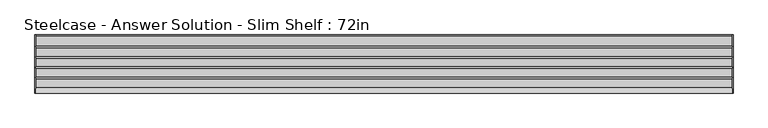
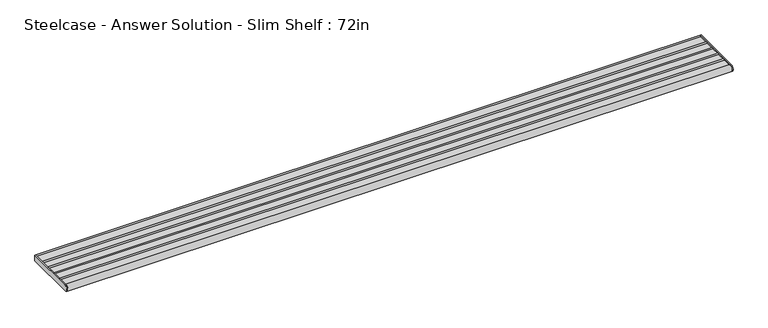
"""IFC4 building model written with IfcOpenShell, lengths in millimetres: furniture geometry, Steelcase - Answer Solution - Slim Shelf : 72in."""

from ifc_helpers import new_model, si_unit, point, frame, frame_2d, origin, place, context, project, spatial, polyline, circle_curve, trimmed, segment, composite_curve, outline, extrude, source, transform, mapped, element, save


def steelcase_answer_solution_slim_shelf_72in_cc0a2fbb(model_context):
    return source(origin(), model_context, "Body", "SweptSolid", [
        extrude(outline(composite_curve([segment(polyline([(-29.2099994, 928.482716), (-2.2859999, 928.482716)]), True, "CONTINUOUS"), segment(trimmed(circle_curve(frame_2d((1e-07, 928.482716)), 2.2860001), [point((-2.2859999, 928.482716))], [point((0.0, 930.7687161))], False, "CARTESIAN"), True, "CONTINUOUS"), segment(polyline([(0.0, 930.7687161), (0.0, 914.4), (-143.9753135, 914.4)]), True, "CONTINUOUS"), segment(trimmed(circle_curve(frame_2d((-143.9753135, 922.8328065)), 8.4328065), [point((-143.9753135, 914.4))], [point((-137.7150621, 928.482716))], False, "CARTESIAN"), True, "CONTINUOUS"), segment(polyline([(-137.7150621, 928.482716), (-114.7063978, 928.482716)]), True, "CONTINUOUS"), segment(trimmed(circle_curve(frame_2d((-112.4204, 928.482716)), 2.2859978), [point((-114.7063978, 928.482716))], [point((-110.1344022, 928.482716))], False, "CARTESIAN"), True, "CONTINUOUS"), segment(polyline([(-110.1344022, 928.482716), (-87.7315999, 928.482716)]), True, "CONTINUOUS"), segment(trimmed(circle_curve(frame_2d((-85.4456021, 928.482716)), 2.2859978), [point((-87.7315999, 928.482716))], [point((-83.1596043, 928.482716))], False, "CARTESIAN"), True, "CONTINUOUS"), segment(polyline([(-83.1596043, 928.482716), (-60.756802, 928.482716)]), True, "CONTINUOUS"), segment(trimmed(circle_curve(frame_2d((-58.4708019, 928.482716)), 2.2860001), [point((-60.756802, 928.482716))], [point((-56.1848018, 928.482716))], False, "CARTESIAN"), True, "CONTINUOUS"), segment(polyline([(-56.1848018, 928.482716), (-33.7819996, 928.482716)]), True, "CONTINUOUS"), segment(trimmed(circle_curve(frame_2d((-31.4959995, 928.482716)), 2.2860001), [point((-33.7819996, 928.482716))], [point((-29.2099994, 928.482716))], False, "CARTESIAN"), True, "CONTINUOUS")], self_intersect=False)), frame((2.7431999, 0.0, 0.0), z_axis=(1.0, 0.0, 0.0), x_axis=(0.0, 1.0, 0.0)), (0.0, 0.0, 1.0), 1823.2120001),
        extrude(outline(composite_curve([segment(polyline([(-143.9753135, 931.265613), (0.0, 931.265613), (0.0, 914.4), (-143.9753135, 914.4)]), True, "CONTINUOUS"), segment(trimmed(circle_curve(frame_2d((-143.9753135, 922.8328065)), 8.4328065), [point((-143.9753135, 914.4))], [point((-143.9753135, 931.265613))], False, "CARTESIAN"), True, "CONTINUOUS")], self_intersect=False)), frame((1825.9552, 0.0, 0.0), z_axis=(1.0, 0.0, 0.0), x_axis=(0.0, 1.0, 0.0)), (0.0, 0.0, 1.0), 2.8448),
        extrude(outline(composite_curve([segment(polyline([(-143.9753135, 931.265613), (0.0, 931.265613), (0.0, 914.4), (-143.9753135, 914.4)]), True, "CONTINUOUS"), segment(trimmed(circle_curve(frame_2d((-143.9753135, 922.8328065)), 8.4328065), [point((-143.9753135, 914.4))], [point((-143.9753135, 931.265613))], False, "CARTESIAN"), True, "CONTINUOUS")], self_intersect=False)), frame((0.0, 0.0, 0.0), z_axis=(1.0, 0.0, 0.0), x_axis=(0.0, 1.0, 0.0)), (0.0, 0.0, 1.0), 2.7431999),
    ])


if __name__ == "__main__":
    model = new_model("IFC4")
    model_context = context("Model", 3, world=origin())
    ifc_project = project(units=[si_unit("LENGTHUNIT", "METRE", prefix="MILLI")], contexts=[model_context])
    site = spatial("IfcSite", under=ifc_project)
    building = spatial("IfcBuilding", under=site)
    placement = place(None, origin())
    steelcase_answer_solution_slim_shelf_72in_shape = steelcase_answer_solution_slim_shelf_72in_cc0a2fbb(model_context)
    element("IfcFurniture", 1, ObjectType="Steelcase - Answer Solution - Slim Shelf : 72in", at=placement, inside=building, context=model_context, shape_type="MappedRepresentation", body=[
        mapped(steelcase_answer_solution_slim_shelf_72in_shape, transform((0.0, 0.0, 0.0), x_axis=(1.0, 0.0, 0.0), y_axis=(0.0, 1.0, 0.0), z_axis=(0.0, 0.0, 1.0))),
    ])
    save(model, "model.ifc")
